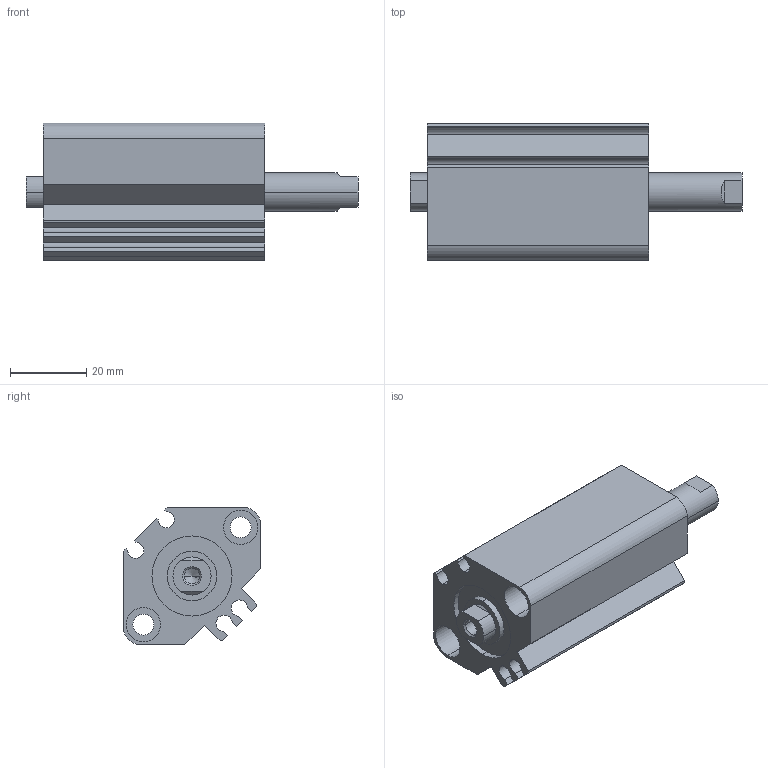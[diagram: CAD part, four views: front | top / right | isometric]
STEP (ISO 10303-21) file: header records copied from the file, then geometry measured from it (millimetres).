
FILE_DESCRIPTION (( 'STEP AP203' ), '1' );
FILE_NAME ('CCMB20-20F-P.STEP', '2020-08-05T11:05:50', ( '' ), ( '' ), 'SwSTEP 2.0', 'SolidWorks 2019', '' );
FILE_SCHEMA (( 'CONFIG_CONTROL_DESIGN' ));
Length unit declared in the file: millimetre
Products named in the file (1): CCMB20-20F-P
Bounding box: 87 x 36 x 36 mm (x, y, z)
Volume: 53062.1 mm3; surface area: 22049.9 mm2
Topology: 2 solids, 2 shells, 114 faces, 276 edges, 178 vertices
Faces by surface type: cylinder 52, plane 50, cone 12
Entity records: 3419 total; most frequent: DIRECTION 614, CARTESIAN_POINT 577, ORIENTED_EDGE 544, EDGE_CURVE 272, AXIS2_PLACEMENT_3D 231, VERTEX_POINT 178, VECTOR 152, LINE 152
